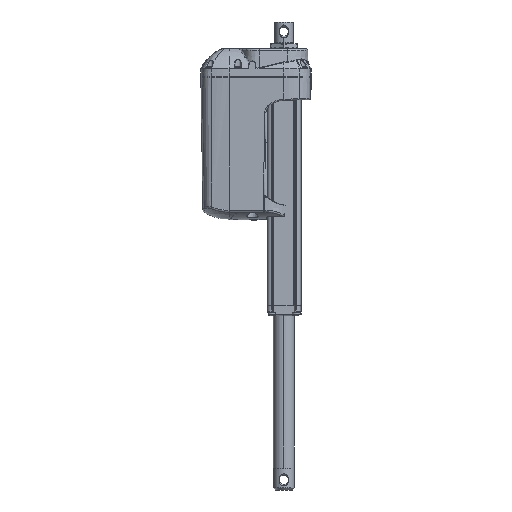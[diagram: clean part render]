
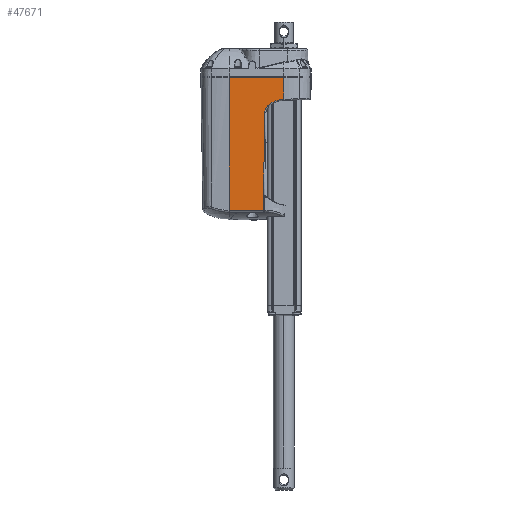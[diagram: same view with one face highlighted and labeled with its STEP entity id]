
A CAD part, front view. The second image highlights one B-rep face of the part: STEP entity #47671.
In plain terms, the highlighted planar face has unit normal (0, -1, -0.018).
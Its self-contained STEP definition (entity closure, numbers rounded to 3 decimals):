
#3104=CARTESIAN_POINT('',(-27.789,-34.893,
-177.996));
#3142=CARTESIAN_POINT('',(-73.42,-34.893,-177.996));
#4707=DIRECTION('',(1.,0.,0.));
#4708=VECTOR('',#4707,73.42);
#4709=CARTESIAN_POINT('',(-73.42,-38.,0.));
#4710=LINE('',#4709,#4708);
#4711=DIRECTION('',(-0.999,0.001,-0.035));
#4712=VECTOR('',#4711,0.072);
#4713=CARTESIAN_POINT('',(0.,-37.488,
-29.325));
#4714=LINE('',#4713,#4712);
#4715=CARTESIAN_POINT('',(-0.072,-37.488,
-29.327));
#4716=CARTESIAN_POINT('',(-0.887,-37.488,
-29.356));
#4717=CARTESIAN_POINT('',(-2.482,-37.486,
-29.472));
#4718=CARTESIAN_POINT('',(-4.712,-37.48,
-29.788));
#4719=CARTESIAN_POINT('',(-6.961,-37.472,
-30.263));
#4720=CARTESIAN_POINT('',(-9.16,-37.461,
-30.888));
#4721=CARTESIAN_POINT('',(-11.307,-37.447,
-31.659));
#4722=CARTESIAN_POINT('',(-13.412,-37.431,
-32.583));
#4723=CARTESIAN_POINT('',(-15.409,-37.413,
-33.625));
#4724=CARTESIAN_POINT('',(-17.441,-37.391,
-34.867));
#4725=CARTESIAN_POINT('',(-19.473,-37.366,
-36.325));
#4726=CARTESIAN_POINT('',(-20.765,-37.347,
-37.409));
#4727=CARTESIAN_POINT('',(-21.399,-37.337,
-37.983));
#4729=CARTESIAN_POINT('',(-21.399,-37.337,
-37.983));
#4730=CARTESIAN_POINT('',(-21.687,-37.332,
-38.244));
#4731=CARTESIAN_POINT('',(-22.229,-37.323,
-38.785));
#4732=CARTESIAN_POINT('',(-22.935,-37.308,
-39.626));
#4733=CARTESIAN_POINT('',(-23.574,-37.292,
-40.54));
#4734=CARTESIAN_POINT('',(-24.125,-37.276,
-41.5));
#4735=CARTESIAN_POINT('',(-24.591,-37.258,
-42.511));
#4736=CARTESIAN_POINT('',(-24.962,-37.24,
-43.545));
#4737=CARTESIAN_POINT('',(-25.252,-37.221,
-44.655));
#4738=CARTESIAN_POINT('',(-25.443,-37.2,
-45.83));
#4739=CARTESIAN_POINT('',(-25.496,-37.186,
-46.625));
#4740=CARTESIAN_POINT('',(-25.503,-37.179,
-47.027));
#4742=DIRECTION('',(-0.017,0.017,-1.));
#4743=VECTOR('',#4742,131.009);
#4744=CARTESIAN_POINT('',(-25.503,-37.179,
-47.027));
#4745=LINE('',#4744,#4743);
#4746=DIRECTION('',(1.,0.,0.));
#4747=VECTOR('',#4746,45.631);
#4748=CARTESIAN_POINT('',(-73.42,-34.893,-177.996));
#4749=LINE('',#4748,#4747);
#4750=DIRECTION('',(0.,0.017,-1.));
#4751=VECTOR('',#4750,178.023);
#4752=CARTESIAN_POINT('',(-73.42,-38.,0.));
#4753=LINE('',#4752,#4751);
#4955=DIRECTION('',(0.,0.017,-1.));
#4956=VECTOR('',#4955,29.329);
#4957=CARTESIAN_POINT('',(0.,-38.,0.));
#4958=LINE('',#4957,#4956);
#34863=VERTEX_POINT('',#3142);
#34881=VERTEX_POINT('',#3104);
#34884=CARTESIAN_POINT('',(-25.503,-37.179,
-47.027));
#34885=VERTEX_POINT('',#34884);
#34887=VERTEX_POINT('',#4729);
#34889=VERTEX_POINT('',#4715);
#34892=CARTESIAN_POINT('',(0.,-37.488,
-29.325));
#34893=VERTEX_POINT('',#34892);
#41630=CARTESIAN_POINT('',(-73.42,-38.,0.));
#41631=VERTEX_POINT('',#41630);
#41632=CARTESIAN_POINT('',(0.,-38.,0.));
#41633=VERTEX_POINT('',#41632);
#47654=CARTESIAN_POINT('',(0.,-38.,0.));
#47655=DIRECTION('',(0.,-1.,-0.017));
#47656=DIRECTION('',(-1.,0.,0.));
#47657=AXIS2_PLACEMENT_3D('',#47654,#47655,#47656);
#47658=PLANE('',#47657);
#47660=ORIENTED_EDGE('',*,*,#47659,.T.);
#47662=ORIENTED_EDGE('',*,*,#47661,.T.);
#47663=ORIENTED_EDGE('',*,*,#47578,.T.);
#47664=ORIENTED_EDGE('',*,*,#47648,.T.);
#47665=ORIENTED_EDGE('',*,*,#45520,.T.);
#47666=ORIENTED_EDGE('',*,*,#45535,.T.);
#47667=ORIENTED_EDGE('',*,*,#45640,.F.);
#47668=ORIENTED_EDGE('',*,*,#45719,.F.);
#47669=EDGE_LOOP('',(#47660,#47662,#47663,#47664,#47665,#47666,#47667,#47668));
#47670=FACE_OUTER_BOUND('',#47669,.F.);
#4728=B_SPLINE_CURVE_WITH_KNOTS('',3,(#4715,#4716,#4717,#4718,#4719,#4720,#4721,
#4722,#4723,#4724,#4725,#4726,#4727),.UNSPECIFIED.,.F.,.F.,(4,1,1,1,1,1,1,1,1,1,
4),(0.,0.1,0.2,0.3,0.4,0.5,0.6,0.7,0.8,0.9,1.),
.UNSPECIFIED.);
#4741=B_SPLINE_CURVE_WITH_KNOTS('',3,(#4729,#4730,#4731,#4732,#4733,#4734,#4735,
#4736,#4737,#4738,#4739,#4740),.UNSPECIFIED.,.F.,.F.,(4,1,1,1,1,1,1,1,1,4),
(0.,0.111,0.222,0.333,0.444,
0.556,0.667,0.778,0.889,1.),
.UNSPECIFIED.);
#45520=EDGE_CURVE('',#34887,#34885,#4741,.T.);
#45535=EDGE_CURVE('',#34885,#34881,#4745,.T.);
#45640=EDGE_CURVE('',#34863,#34881,#4749,.T.);
#45719=EDGE_CURVE('',#41631,#34863,#4753,.T.);
#47578=EDGE_CURVE('',#34893,#34889,#4714,.T.);
#47648=EDGE_CURVE('',#34889,#34887,#4728,.T.);
#47659=EDGE_CURVE('',#41631,#41633,#4710,.T.);
#47661=EDGE_CURVE('',#41633,#34893,#4958,.T.);
#47671=ADVANCED_FACE('',(#47670),#47658,.T.);
